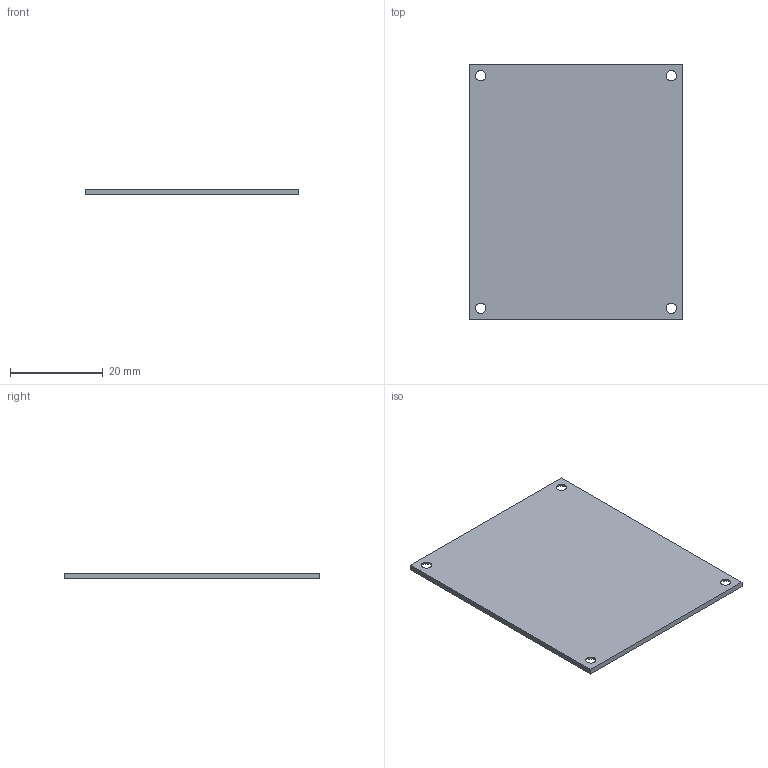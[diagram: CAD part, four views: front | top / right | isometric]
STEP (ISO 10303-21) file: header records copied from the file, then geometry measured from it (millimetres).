
FILE_DESCRIPTION(('Open CASCADE Model'),'2;1');
FILE_NAME('Open CASCADE Shape Model','2026-08-25T11:40:42',('Author'),( 'Open CASCADE'),'Open CASCADE STEP processor 7.9','Open CASCADE 7.9' ,'Unknown');
FILE_SCHEMA(('AUTOMOTIVE_DESIGN { 1 0 10303 214 1 1 1 1 }'));
Length unit declared in the file: millimetre
Products named in the file (1): Open CASCADE STEP translator 7.9 4
Bounding box: 46 x 55 x 1.2 mm (x, y, z)
Volume: 2999.7 mm3; surface area: 5294.2 mm2
Topology: 1 solids, 1 shells, 14 faces, 32 edges, 20 vertices
Faces by surface type: plane 6, cone 4, cylinder 4
Full cylindrical faces by diameter (mm): 2.2 x4
Entity records: 850 total; most frequent: CARTESIAN_POINT 155, DIRECTION 134, LINE 76, VECTOR 76, ORIENTED_EDGE 64, PCURVE 64, DEFINITIONAL_REPRESENTATION 64, EDGE_CURVE 32
